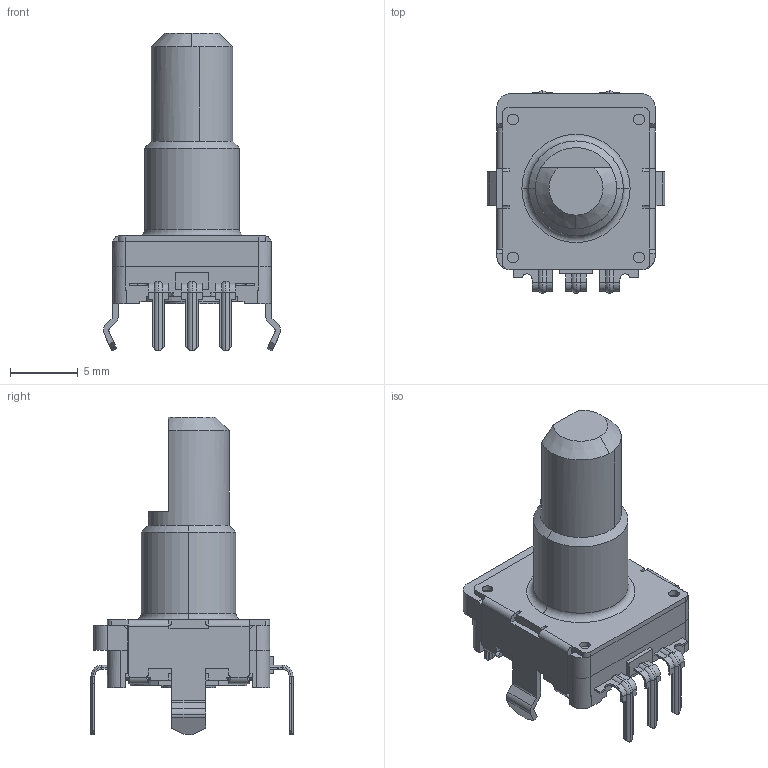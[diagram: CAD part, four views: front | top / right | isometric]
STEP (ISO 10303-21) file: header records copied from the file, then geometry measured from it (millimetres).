
FILE_DESCRIPTION(('STEP AP214'),'1');
FILE_NAME('EC1110120005.step', '2011-03-09T04:31:41', ( '' ), ( '' ), 'SwSTEP 2.0', 'SolidWorks 2007', '' );
FILE_SCHEMA(('automotive_design'));
Length unit declared in the file: inch
Products named in the file (1): EC1110120005
Bounding box: 13.1 x 14.95 x 23.5 mm (x, y, z)
Volume: 1115.9 mm3; surface area: 1141.7 mm2
Topology: 1 solids, 2 shells, 606 faces, 1605 edges, 1004 vertices
Faces by surface type: plane 382, cylinder 178, torus 32, bspline 8, cone 6
Entity records: 23718 total; most frequent: CARTESIAN_POINT 3691, ORIENTED_EDGE 3210, DIRECTION 3123, EDGE_CURVE 1605, LINE 1173, VECTOR 1173, VERTEX_POINT 1004, AXIS2_PLACEMENT_3D 975
